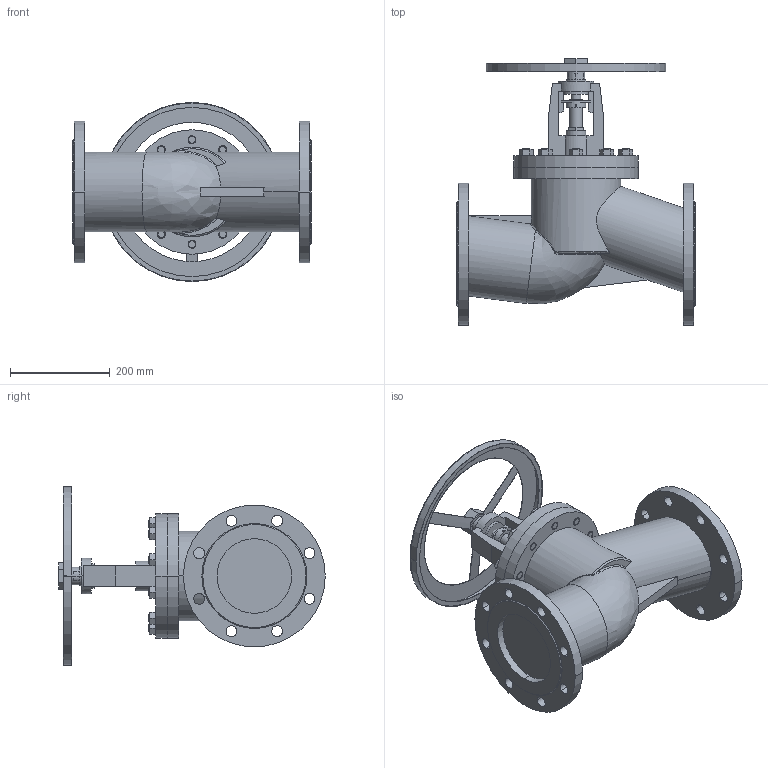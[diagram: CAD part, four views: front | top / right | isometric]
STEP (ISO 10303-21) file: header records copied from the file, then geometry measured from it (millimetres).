
FILE_DESCRIPTION((''),'2;1');
FILE_NAME('BSV-16F_SB_ASM','2026-05-05T',('user'),(''),'PRO/ENGINEER BY PARAMETRIC TECHNOLOGY CORPORATION, 2011220','PRO/ENGINEER BY PARAMETRIC TECHNOLOGY CORPORATION, 2011220','');
FILE_SCHEMA(('CONFIG_CONTROL_DESIGN'));
Length unit declared in the file: millimetre
Products named in the file (11): BSF-16F_KORPUS; BSF-16F_KRISKA; BSF-16F_SHPILKA; G-5915-M16; BSF-16F_SHTOK_SILFON; BSF-16F_VTULKA; BSF-16F_VTULKA_2; BSF-16F_VTULKA_3; BSF-16F_SHTURVAL; BSF-16F_GAIKA; BSV-16F_SB_ASM
Assembly tree (28 placements, depth 2):
  BSV-16F_SB_ASM
    BSF-16F_KORPUS
    BSF-16F_KRISKA
    BSF-16F_SHPILKA  x10
    G-5915-M16  x10
    BSF-16F_SHTOK_SILFON
    BSF-16F_VTULKA
    BSF-16F_VTULKA_2
    BSF-16F_VTULKA_3
    BSF-16F_SHTURVAL
    BSF-16F_GAIKA
Bounding box: 480 x 535.5 x 360 mm (x, y, z)
Volume: 16129483.6 mm3; surface area: 1108279.2 mm2
Topology: 28 solids, 52 shells, 602 faces, 1472 edges, 941 vertices
Faces by surface type: cylinder 239, plane 222, cone 130, bspline 9, torus 2
Entity records: 12558 total; most frequent: CARTESIAN_POINT 3275, DIRECTION 2015, ORIENTED_EDGE 1732, EDGE_CURVE 896, AXIS2_PLACEMENT_3D 798, VERTEX_POINT 581, EDGE_LOOP 463, VECTOR 419
